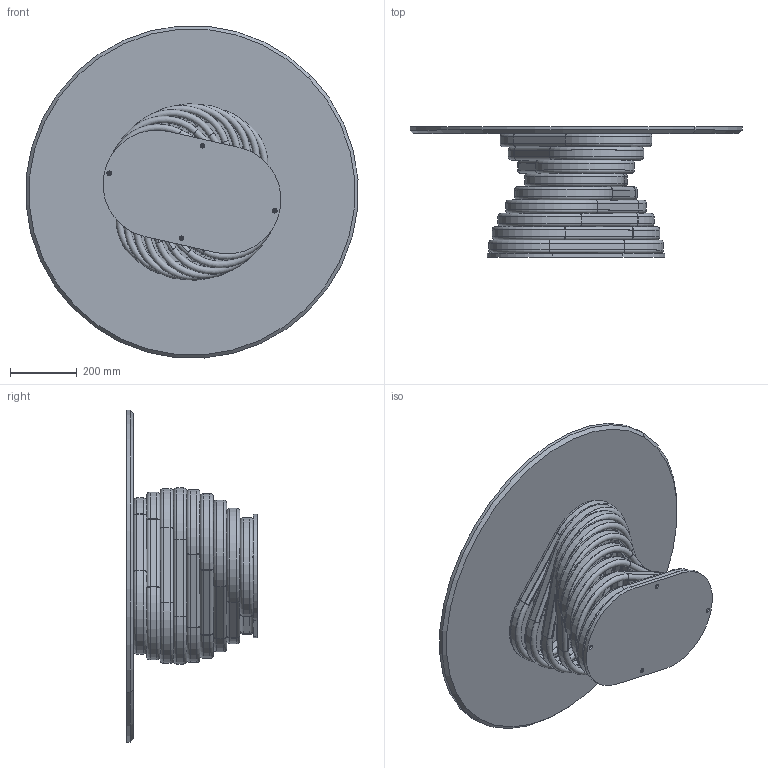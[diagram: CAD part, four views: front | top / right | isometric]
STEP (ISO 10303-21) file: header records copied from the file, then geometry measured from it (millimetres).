
FILE_DESCRIPTION (( 'STEP AP203' ), '1' );
FILE_NAME ('RL03M.STEP', '2024-08-06T12:36:43', ( '' ), ( '' ), 'SwSTEP 2.0', 'SolidWorks 2022', '' );
FILE_SCHEMA (( 'CONFIG_CONTROL_DESIGN' ));
Length unit declared in the file: millimetre
Products named in the file (12): P0000003-00-STAFFA DI FISSAGGIO DIAMETRO 250_P0000003-250mm normale; RLB1000000-00-ROTOLO LOW 9 ANELLI; M8xXXmm_M8x20mm; M0X-00- D. piani marmo_D.1000; RLBP000000INT-00-ANELLO INTERMEDIO._Default<A macchina>; M0XMXX-00-Piani Rotondi in marmo_D.100 CON PIASTRA; RLBP000000INF-00-ANELLO INFERIORE FILETTATO_Default<A macchina>; RLBP000000-00-ROTOLO LOW PIASTRA; RL03M; P0000005-00-FILETTO M24 CON FORO H.20mm; M8xXXmm_M8x24mm; RLBP000000SUP-00-ANELLO CON PIASTRA SUPERIORE_Default<A macchina>
Assembly tree (19 placements, depth 3):
  RL03M
    RLB1000000-00-ROTOLO LOW 9 ANELLI
      RLBP000000INF-00-ANELLO INFERIORE FILETTATO_Default<A macchina>
      RLBP000000INT-00-ANELLO INTERMEDIO._Default<A macchina>  x7
      RLBP000000SUP-00-ANELLO CON PIASTRA SUPERIORE_Default<A macchina>
    RLBP000000-00-ROTOLO LOW PIASTRA
    M0XMXX-00-Piani Rotondi in marmo_D.100 CON PIASTRA
      M0X-00- D. piani marmo_D.1000
      P0000003-00-STAFFA DI FISSAGGIO DIAMETRO 250_P0000003-250mm normale
      M8xXXmm_M8x24mm
      P0000005-00-FILETTO M24 CON FORO H.20mm
      M8xXXmm_M8x20mm  x3
Bounding box: 997.08 x 392 x 997.08 mm (x, y, z)
Volume: 20093359.8 mm3; surface area: 4434080.4 mm2
Topology: 46 solids, 46 shells, 632 faces, 1518 edges, 968 vertices
Faces by surface type: cylinder 239, plane 230, torus 88, cone 70, bspline 5
Entity records: 13773 total; most frequent: CARTESIAN_POINT 4899, DIRECTION 1592, ORIENTED_EDGE 1500, EDGE_CURVE 750, AXIS2_PLACEMENT_3D 635, VERTEX_POINT 480, EDGE_LOOP 372, LINE 322
